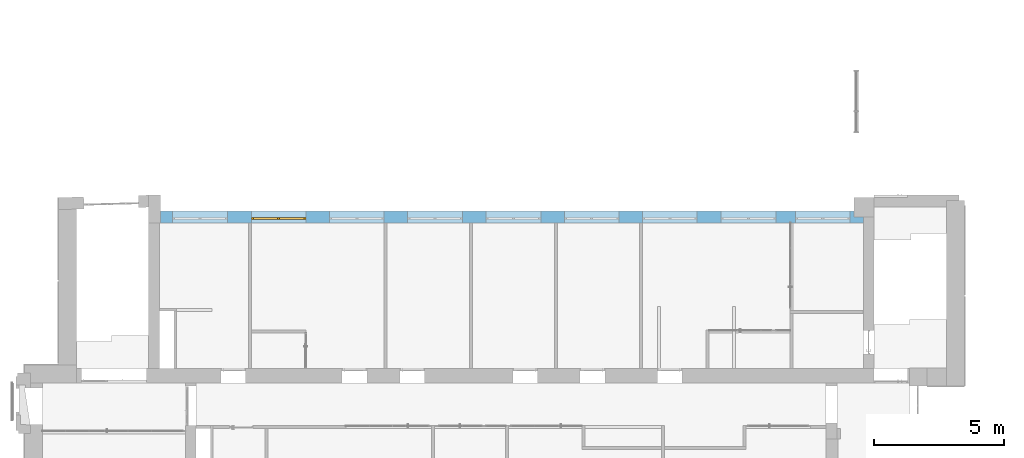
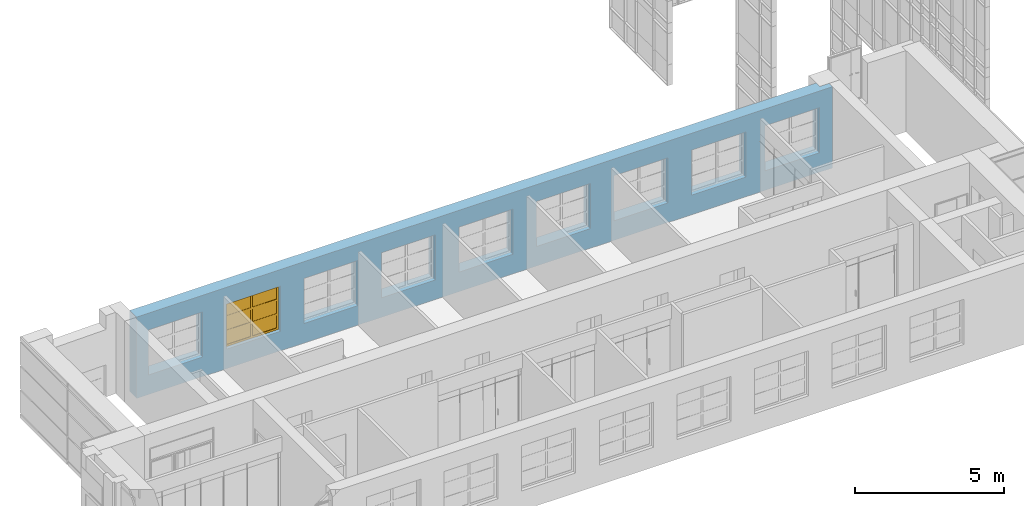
# One storey, part 60 of 73: 1 window, 9 openings, plus 1 element that does not belong to this part.
"""IFC2X3 building model written with IfcOpenShell, lengths in millimetres."""

from ifc_helpers import new_model, entity, si_unit, converted_unit, derived_unit, direction, frame, frame_2d, origin, origin_2d_with_axis, place, context, subcontext, project, spatial, polyline, rectangle, outline, extrude, face_set, surface_model, source, transform, mapped, material, material_list, layer, layer_set, layer_usage, type_object, type_shapes, element, fill, save


model = new_model("IFC2X3")

# Units and contexts
model_context = context("Model", 3, precision=0.01, world=origin(), true_north=direction((6.12303176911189e-17, 1.0)))
body_context = subcontext(model_context, "Body", "Model", "MODEL_VIEW")
ifc_project = project(units=[si_unit("LENGTHUNIT", "METRE", prefix="MILLI"), si_unit("AREAUNIT", "SQUARE_METRE"), si_unit("VOLUMEUNIT", "CUBIC_METRE"), converted_unit("PLANEANGLEUNIT", "DEGREE", entity("IfcRatioMeasure", 0.0174532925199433), si_unit("PLANEANGLEUNIT", "RADIAN"), dimensions=[0, 0, 0, 0, 0, 0, 0]), si_unit("MASSUNIT", "GRAM", prefix="KILO"), derived_unit("MASSDENSITYUNIT", [(si_unit("MASSUNIT", "GRAM", prefix="KILO"), 1), (si_unit("LENGTHUNIT", "METRE"), -3)]), si_unit("TIMEUNIT", "SECOND"), si_unit("FREQUENCYUNIT", "HERTZ"), si_unit("THERMODYNAMICTEMPERATUREUNIT", "DEGREE_CELSIUS"), derived_unit("THERMALTRANSMITTANCEUNIT", [(si_unit("MASSUNIT", "GRAM", prefix="KILO"), 1), (si_unit("THERMODYNAMICTEMPERATUREUNIT", "KELVIN"), -1), (si_unit("TIMEUNIT", "SECOND"), -3)]), derived_unit("VOLUMETRICFLOWRATEUNIT", [(si_unit("LENGTHUNIT", "METRE"), 3), (si_unit("TIMEUNIT", "SECOND"), -1)]), si_unit("ELECTRICCURRENTUNIT", "AMPERE"), si_unit("ELECTRICVOLTAGEUNIT", "VOLT"), si_unit("POWERUNIT", "WATT"), si_unit("FORCEUNIT", "NEWTON", prefix="KILO"), si_unit("ILLUMINANCEUNIT", "LUX"), si_unit("LUMINOUSFLUXUNIT", "LUMEN"), si_unit("LUMINOUSINTENSITYUNIT", "CANDELA"), derived_unit("USERDEFINED", [(si_unit("MASSUNIT", "GRAM", prefix="KILO"), -1), (si_unit("LENGTHUNIT", "METRE"), -2), (si_unit("TIMEUNIT", "SECOND"), 3), (si_unit("LUMINOUSFLUXUNIT", "LUMEN"), 1)]), derived_unit("LINEARVELOCITYUNIT", [(si_unit("LENGTHUNIT", "METRE"), 1), (si_unit("TIMEUNIT", "SECOND"), -1)]), si_unit("PRESSUREUNIT", "PASCAL"), derived_unit("USERDEFINED", [(si_unit("LENGTHUNIT", "METRE"), -2), (si_unit("MASSUNIT", "GRAM", prefix="KILO"), 1), (si_unit("TIMEUNIT", "SECOND"), -2)])], contexts=[model_context])

# Site, building, storey
site_placement = place(None, frame((-151.875543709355, 2715.0, 0.0)))
site = spatial("IfcSite", under=ifc_project, at=site_placement, Name="Surface", CompositionType="ELEMENT")
building_placement = place(site_placement, origin())
building = spatial("IfcBuilding", under=site, at=building_placement, CompositionType="ELEMENT")
storey_placement = place(building_placement, frame((0.0, 0.0, 6730.43000000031)))
storey = spatial("IfcBuildingStorey", under=building, at=storey_placement, Name="3 korrus", CompositionType="ELEMENT", Elevation=6730.43000000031)

# Wall, openings, window
ifc_material_1 = material(Name="Brick, Common")
ifc_layer_1 = layer(ifc_material_1, 440.0)
ifc_material_2 = material(Name="__Kips GN13_tava")
ifc_layer_2 = layer(ifc_material_2, 20.0)
ifc_layer_set = layer_set([ifc_layer_1, ifc_layer_2], Name="Basic Wall:VS-1")
ifc_layer_usage = layer_usage(ifc_layer_set, "AXIS2", "POSITIVE", -230.0)
wall_type = type_object("IfcWallType", Name="Basic Wall:VS-1", PredefinedType="STANDARD", material=ifc_layer_set)
wall_placement = place(storey_placement, frame((31972.6162682, 12380.0, 0.00203353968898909), z_axis=(0.0, 0.0, 1.0), x_axis=(-1.0, 0.0, 0.0)))
wall = element("IfcWallStandardCase", 1, at=wall_placement, inside=storey, type_object=wall_type, material=ifc_layer_usage, Name="SEIN - 005", ObjectType="Basic Wall:VS-1", context=body_context, shape_type="SweptSolid", body=[
    extrude(outline(polyline([(26972.5418693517, -230.0), (26972.5418693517, 230.0), (0.0, 230.0), (0.0, 0.0), (370.0, 0.0), (370.0, -230.0), (26972.5418693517, -230.0)])), origin(), (0.0, 0.0, 1.0), 3329.56796646),
])
opening_1_placement = place(wall_placement, frame((31972.6162682, 12380.0, -0.00203353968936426), z_axis=(0.0, 0.0, 1.0), x_axis=(-1.0, 0.0, 0.0)))
element("IfcOpeningElement", 2, at=opening_1_placement, cuts=wall, Name="SEIN - 005", ObjectType="Opening", context=body_context, shape_type="SweptSolid", body=[
    extrude(rectangle(XDim=1850.0, YDim=2100.0, at=frame_2d((0.0, -5.6843418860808e-13), x_axis=(1.0, 0.0))), frame((6512.84934801, 13077.9, 1725.00203353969), z_axis=(0.0, -1.0, 0.0), x_axis=(0.0, 0.0, 1.0)), (0.0, 0.0, 1.0), 1393.8),
])
opening_2_placement = place(wall_placement, frame((31972.6162682, 12380.0, -0.00203353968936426), z_axis=(0.0, 0.0, 1.0), x_axis=(-1.0, 0.0, 0.0)))
opening_2 = element("IfcOpeningElement", 3, at=opening_2_placement, cuts=wall, Name="SEIN - 005", ObjectType="Opening", context=body_context, shape_type="SweptSolid", body=[
    extrude(rectangle(XDim=1850.0, YDim=2100.0, at=origin_2d_with_axis()), frame((9532.84934801, 13077.9, 1725.00203353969), z_axis=(0.0, -1.0, 0.0), x_axis=(0.0, 0.0, 1.0)), (0.0, 0.0, 1.0), 1393.8),
])
opening_3_placement = place(wall_placement, frame((31972.6162682, 12380.0, -0.00203353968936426), z_axis=(0.0, 0.0, 1.0), x_axis=(-1.0, 0.0, 0.0)))
element("IfcOpeningElement", 4, at=opening_3_placement, cuts=wall, Name="SEIN - 005", ObjectType="Opening", context=body_context, shape_type="SweptSolid", body=[
    extrude(rectangle(XDim=1850.0, YDim=2100.0, at=frame_2d((0.0, -1.02318153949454e-12), x_axis=(1.0, 0.0))), frame((12532.84934801, 13077.9, 1725.00203353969), z_axis=(0.0, -1.0, 0.0), x_axis=(0.0, 0.0, 1.0)), (0.0, 0.0, 1.0), 1393.8),
])
opening_4_placement = place(wall_placement, frame((31972.6162682, 12380.0, -0.00203353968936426), z_axis=(0.0, 0.0, 1.0), x_axis=(-1.0, 0.0, 0.0)))
element("IfcOpeningElement", 5, at=opening_4_placement, cuts=wall, Name="SEIN - 005", ObjectType="Opening", context=body_context, shape_type="SweptSolid", body=[
    extrude(rectangle(XDim=1850.0, YDim=2100.0, at=origin_2d_with_axis()), frame((15532.849348, 13077.9, 1725.00203353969), z_axis=(0.0, -1.0, 0.0), x_axis=(0.0, 0.0, 1.0)), (0.0, 0.0, 1.0), 1393.8),
])
opening_5_placement = place(wall_placement, frame((31972.6162682, 12380.0, -0.00203353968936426), z_axis=(0.0, 0.0, 1.0), x_axis=(-1.0, 0.0, 0.0)))
element("IfcOpeningElement", 6, at=opening_5_placement, cuts=wall, Name="SEIN - 005", ObjectType="Opening", context=body_context, shape_type="SweptSolid", body=[
    extrude(rectangle(XDim=1850.0, YDim=2100.0, at=origin_2d_with_axis()), frame((18542.849348, 13077.9, 1725.00203353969), z_axis=(0.0, -1.0, 0.0), x_axis=(0.0, 0.0, 1.0)), (0.0, 0.0, 1.0), 1393.8),
])
opening_6_placement = place(wall_placement, frame((31972.6162682, 12380.0, -0.00203353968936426), z_axis=(0.0, 0.0, 1.0), x_axis=(-1.0, 0.0, 0.0)))
element("IfcOpeningElement", 7, at=opening_6_placement, cuts=wall, Name="SEIN - 005", ObjectType="Opening", context=body_context, shape_type="SweptSolid", body=[
    extrude(rectangle(XDim=1850.0, YDim=2100.0, at=origin_2d_with_axis()), frame((21543.0530903, 13077.9, 1725.00203353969), z_axis=(0.0, -1.0, 0.0), x_axis=(0.0, 0.0, 1.0)), (0.0, 0.0, 1.0), 1393.8),
])
opening_7_placement = place(wall_placement, frame((31972.6162682, 12380.0, -0.00203353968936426), z_axis=(0.0, 0.0, 1.0), x_axis=(-1.0, 0.0, 0.0)))
element("IfcOpeningElement", 8, at=opening_7_placement, cuts=wall, Name="SEIN - 005", ObjectType="Opening", context=body_context, shape_type="SweptSolid", body=[
    extrude(rectangle(XDim=1850.0, YDim=2100.0, at=origin_2d_with_axis()), frame((24543.0530903, 13077.9, 1725.00203353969), z_axis=(0.0, -1.0, 0.0), x_axis=(0.0, 0.0, 1.0)), (0.0, 0.0, 1.0), 1393.8),
])
opening_8_placement = place(wall_placement, frame((31972.6162682, 12380.0, -0.00203353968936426), z_axis=(0.0, 0.0, 1.0), x_axis=(-1.0, 0.0, 0.0)))
element("IfcOpeningElement", 9, at=opening_8_placement, cuts=wall, Name="SEIN - 005", ObjectType="Opening", context=body_context, shape_type="SweptSolid", body=[
    extrude(rectangle(XDim=1850.0, YDim=2100.0, at=origin_2d_with_axis()), frame((27563.0530903, 13077.9, 1725.00203353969), z_axis=(0.0, -1.0, 0.0), x_axis=(0.0, 0.0, 1.0)), (0.0, 0.0, 1.0), 1393.8),
])
opening_9_placement = place(wall_placement, frame((31972.6162682, 12380.0, -0.00203353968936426), z_axis=(0.0, 0.0, 1.0), x_axis=(-1.0, 0.0, 0.0)))
element("IfcOpeningElement", 10, at=opening_9_placement, cuts=wall, Name="SEIN - 005", ObjectType="Opening", context=body_context, shape_type="SweptSolid", body=[
    extrude(rectangle(XDim=1850.0, YDim=2100.0, at=origin_2d_with_axis()), frame((30412.5729235, 13077.9, 1725.00203353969), z_axis=(0.0, -1.0, 0.0), x_axis=(0.0, 0.0, 1.0)), (0.0, 0.0, 1.0), 1393.8),
])
ifc_material_3 = material(Name="Paint - Titanium White")
ifc_material_4 = material(Name="Paint - Dark Gray")
ifc_material_5 = material(Name="Glass - Clear Fast")
ifc_material_list_1 = material_list([ifc_material_3, ifc_material_4, ifc_material_5])
ifc_material_list_2 = material_list([ifc_material_3, ifc_material_4, ifc_material_5])
window_style = type_object("IfcWindowStyle", Name="Aken_1850x2100", ConstructionType="NOTDEFINED", OperationType="DOUBLE_PANEL_VERTICAL", ParameterTakesPrecedence=False, Sizeable=False, material=ifc_material_list_2)
shared_shape = source(origin(), body_context, "Body", "SurfaceModel", [
    surface_model("IfcFaceBasedSurfaceModel", [(80.0, -665.9, 1770.0), (80.0, -620.9, 1770.0), (0.0, -620.9, 1770.0), (0.0, -665.9, 1770.0), (80.0, -665.9, 80.0), (80.0, -620.9, 80.0), (80.0, -620.9, 1770.0), (80.0, -665.9, 1770.0), (80.0, -620.9, 1770.0), (80.0, -620.9, 80.0), (0.0, -620.9, 80.0), (0.0, -620.9, 1770.0), (0.0, -665.9, 1770.0), (0.0, -620.9, 1770.0), (0.0, -620.9, 80.0), (0.0, -665.9, 80.0), (80.0, -665.9, 1770.0), (0.0, -665.9, 1770.0), (0.0, -665.9, 80.0), (80.0, -665.9, 80.0), (0.0, -665.9, 80.0), (0.0, -620.9, 80.0), (80.0, -620.9, 80.0), (80.0, -665.9, 80.0), (2020.0, -665.9, 80.0), (2020.0, -620.9, 80.0), (2100.0, -620.9, 80.0), (2100.0, -665.9, 80.0), (2020.0, -665.9, 1770.0), (2020.0, -620.9, 1770.0), (2020.0, -620.9, 80.0), (2020.0, -665.9, 80.0), (2020.0, -620.9, 80.0), (2020.0, -620.9, 1770.0), (2100.0, -620.9, 1770.0), (2100.0, -620.9, 80.0), (2100.0, -665.9, 80.0), (2100.0, -620.9, 80.0), (2100.0, -620.9, 1770.0), (2100.0, -665.9, 1770.0), (2020.0, -665.9, 80.0), (2100.0, -665.9, 80.0), (2100.0, -665.9, 1770.0), (2020.0, -665.9, 1770.0), (2100.0, -665.9, 1770.0), (2100.0, -620.9, 1770.0), (2020.0, -620.9, 1770.0), (2020.0, -665.9, 1770.0), (1010.0, -665.9, 80.0), (1010.0, -620.9, 80.0), (1090.0, -620.9, 80.0), (1090.0, -665.9, 80.0), (1010.0, -665.9, 1770.0), (1010.0, -620.9, 1770.0), (1010.0, -620.9, 80.0), (1010.0, -665.9, 80.0), (1010.0, -620.9, 80.0), (1010.0, -620.9, 1770.0), (1090.0, -620.9, 1770.0), (1090.0, -620.9, 80.0), (1090.0, -665.9, 80.0), (1090.0, -620.9, 80.0), (1090.0, -620.9, 1770.0), (1090.0, -665.9, 1770.0), (1010.0, -665.9, 80.0), (1090.0, -665.9, 80.0), (1090.0, -665.9, 1770.0), (1010.0, -665.9, 1770.0), (1090.0, -665.9, 1770.0), (1090.0, -620.9, 1770.0), (1010.0, -620.9, 1770.0), (1010.0, -665.9, 1770.0), (80.0, -665.9, 80.0), (80.0, -620.9, 80.0), (0.0, -620.9, 80.0), (0.0, -665.9, 80.0), (1010.0, -665.9, 80.0), (1010.0, -620.9, 80.0), (80.0, -620.9, 80.0), (80.0, -665.9, 80.0), (80.0, -620.9, 80.0), (1010.0, -620.9, 80.0), (1090.0, -620.9, 80.0), (2020.0, -620.9, 80.0), (2100.0, -620.9, 80.0), (2100.0, -620.9, 0.0), (0.0, -620.9, 0.0), (0.0, -620.9, 80.0), (0.0, -665.9, 80.0), (0.0, -620.9, 80.0), (0.0, -620.9, 0.0), (0.0, -665.9, 0.0), (80.0, -665.9, 80.0), (0.0, -665.9, 80.0), (0.0, -665.9, 0.0), (2100.0, -665.9, 0.0), (2100.0, -665.9, 80.0), (2020.0, -665.9, 80.0), (1090.0, -665.9, 80.0), (1010.0, -665.9, 80.0), (1090.0, -665.9, 80.0), (1090.0, -620.9, 80.0), (1010.0, -620.9, 80.0), (1010.0, -665.9, 80.0), (2020.0, -665.9, 80.0), (2020.0, -620.9, 80.0), (1090.0, -620.9, 80.0), (1090.0, -665.9, 80.0), (2100.0, -665.9, 80.0), (2100.0, -620.9, 80.0), (2020.0, -620.9, 80.0), (2020.0, -665.9, 80.0), (2100.0, -665.9, 0.0), (2100.0, -620.9, 0.0), (2100.0, -620.9, 80.0), (2100.0, -665.9, 80.0), (0.0, -665.9, 0.0), (0.0, -620.9, 0.0), (2100.0, -620.9, 0.0), (2100.0, -665.9, 0.0), (1010.0, -665.9, 1770.0), (1010.0, -620.9, 1770.0), (1090.0, -620.9, 1770.0), (1090.0, -665.9, 1770.0), (80.0, -665.9, 1770.0), (80.0, -620.9, 1770.0), (1010.0, -620.9, 1770.0), (1010.0, -665.9, 1770.0), (1010.0, -620.9, 1770.0), (80.0, -620.9, 1770.0), (0.0, -620.9, 1770.0), (0.0, -620.9, 1850.0), (2100.0, -620.9, 1850.0), (2100.0, -620.9, 1770.0), (2020.0, -620.9, 1770.0), (1090.0, -620.9, 1770.0), (1090.0, -665.9, 1770.0), (1090.0, -620.9, 1770.0), (2020.0, -620.9, 1770.0), (2020.0, -665.9, 1770.0), (1010.0, -665.9, 1770.0), (1090.0, -665.9, 1770.0), (2020.0, -665.9, 1770.0), (2100.0, -665.9, 1770.0), (2100.0, -665.9, 1850.0), (0.0, -665.9, 1850.0), (0.0, -665.9, 1770.0), (80.0, -665.9, 1770.0), (0.0, -665.9, 1770.0), (0.0, -620.9, 1770.0), (80.0, -620.9, 1770.0), (80.0, -665.9, 1770.0), (0.0, -665.9, 1850.0), (0.0, -620.9, 1850.0), (0.0, -620.9, 1770.0), (0.0, -665.9, 1770.0), (2100.0, -665.9, 1850.0), (2100.0, -620.9, 1850.0), (0.0, -620.9, 1850.0), (0.0, -665.9, 1850.0), (2100.0, -665.9, 1770.0), (2100.0, -620.9, 1770.0), (2100.0, -620.9, 1850.0), (2100.0, -665.9, 1850.0), (2020.0, -665.9, 1770.0), (2020.0, -620.9, 1770.0), (2100.0, -620.9, 1770.0), (2100.0, -665.9, 1770.0), (80.0, -640.9, 590.0), (80.0, -630.9, 590.0), (1010.0, -630.9, 590.0), (1010.0, -640.9, 590.0), (80.0, -640.9, 670.0), (80.0, -630.9, 670.0), (80.0, -630.9, 590.0), (80.0, -640.9, 590.0), (80.0, -630.9, 590.0), (80.0, -630.9, 670.0), (1010.0, -630.9, 670.0), (1010.0, -630.9, 590.0), (1010.0, -640.9, 590.0), (1010.0, -630.9, 590.0), (1010.0, -630.9, 670.0), (1010.0, -640.9, 670.0), (80.0, -640.9, 590.0), (1010.0, -640.9, 590.0), (1010.0, -640.9, 670.0), (80.0, -640.9, 670.0), (1010.0, -640.9, 670.0), (1010.0, -630.9, 670.0), (80.0, -630.9, 670.0), (80.0, -640.9, 670.0), (80.0, -640.9, 1180.0), (80.0, -630.9, 1180.0), (1010.0, -630.9, 1180.0), (1010.0, -640.9, 1180.0), (80.0, -640.9, 1260.0), (80.0, -630.9, 1260.0), (80.0, -630.9, 1180.0), (80.0, -640.9, 1180.0), (80.0, -630.9, 1180.0), (80.0, -630.9, 1260.0), (1010.0, -630.9, 1260.0), (1010.0, -630.9, 1180.0), (1010.0, -640.9, 1180.0), (1010.0, -630.9, 1180.0), (1010.0, -630.9, 1260.0), (1010.0, -640.9, 1260.0), (80.0, -640.9, 1180.0), (1010.0, -640.9, 1180.0), (1010.0, -640.9, 1260.0), (80.0, -640.9, 1260.0), (1010.0, -640.9, 1260.0), (1010.0, -630.9, 1260.0), (80.0, -630.9, 1260.0), (80.0, -640.9, 1260.0), (1090.0, -640.9, 590.0), (1090.0, -630.9, 590.0), (2020.0, -630.9, 590.0), (2020.0, -640.9, 590.0), (1090.0, -640.9, 670.0), (1090.0, -630.9, 670.0), (1090.0, -630.9, 590.0), (1090.0, -640.9, 590.0), (1090.0, -630.9, 590.0), (1090.0, -630.9, 670.0), (2020.0, -630.9, 670.0), (2020.0, -630.9, 590.0), (2020.0, -640.9, 590.0), (2020.0, -630.9, 590.0), (2020.0, -630.9, 670.0), (2020.0, -640.9, 670.0), (1090.0, -640.9, 590.0), (2020.0, -640.9, 590.0), (2020.0, -640.9, 670.0), (1090.0, -640.9, 670.0), (2020.0, -640.9, 670.0), (2020.0, -630.9, 670.0), (1090.0, -630.9, 670.0), (1090.0, -640.9, 670.0), (1090.0, -640.9, 1180.0), (1090.0, -630.9, 1180.0), (2020.0, -630.9, 1180.0), (2020.0, -640.9, 1180.0), (1090.0, -640.9, 1260.0), (1090.0, -630.9, 1260.0), (1090.0, -630.9, 1180.0), (1090.0, -640.9, 1180.0), (1090.0, -630.9, 1180.0), (1090.0, -630.9, 1260.0), (2020.0, -630.9, 1260.0), (2020.0, -630.9, 1180.0), (2020.0, -640.9, 1180.0), (2020.0, -630.9, 1180.0), (2020.0, -630.9, 1260.0), (2020.0, -640.9, 1260.0), (1090.0, -640.9, 1180.0), (2020.0, -640.9, 1180.0), (2020.0, -640.9, 1260.0), (1090.0, -640.9, 1260.0), (2020.0, -640.9, 1260.0), (2020.0, -630.9, 1260.0), (1090.0, -630.9, 1260.0), (1090.0, -640.9, 1260.0)], [face_set([[[0, 1, 2, 3]]]), face_set([[[4, 5, 6, 7]]]), face_set([[[8, 9, 10, 11]]]), face_set([[[12, 13, 14, 15]]]), face_set([[[16, 17, 18, 19]]]), face_set([[[20, 21, 22, 23]]]), face_set([[[24, 25, 26, 27]]]), face_set([[[28, 29, 30, 31]]]), face_set([[[32, 33, 34, 35]]]), face_set([[[36, 37, 38, 39]]]), face_set([[[40, 41, 42, 43]]]), face_set([[[44, 45, 46, 47]]]), face_set([[[48, 49, 50, 51]]]), face_set([[[52, 53, 54, 55]]]), face_set([[[56, 57, 58, 59]]]), face_set([[[60, 61, 62, 63]]]), face_set([[[64, 65, 66, 67]]]), face_set([[[68, 69, 70, 71]]]), face_set([[[72, 73, 74, 75]]]), face_set([[[76, 77, 78, 79]]]), face_set([[[80, 81, 82, 83, 84, 85, 86, 87]]]), face_set([[[88, 89, 90, 91]]]), face_set([[[92, 93, 94, 95, 96, 97, 98, 99]]]), face_set([[[100, 101, 102, 103]]]), face_set([[[104, 105, 106, 107]]]), face_set([[[108, 109, 110, 111]]]), face_set([[[112, 113, 114, 115]]]), face_set([[[116, 117, 118, 119]]]), face_set([[[120, 121, 122, 123]]]), face_set([[[124, 125, 126, 127]]]), face_set([[[128, 129, 130, 131, 132, 133, 134, 135]]]), face_set([[[136, 137, 138, 139]]]), face_set([[[140, 141, 142, 143, 144, 145, 146, 147]]]), face_set([[[148, 149, 150, 151]]]), face_set([[[152, 153, 154, 155]]]), face_set([[[156, 157, 158, 159]]]), face_set([[[160, 161, 162, 163]]]), face_set([[[164, 165, 166, 167]]]), face_set([[[168, 169, 170, 171]]]), face_set([[[172, 173, 174, 175]]]), face_set([[[176, 177, 178, 179]]]), face_set([[[180, 181, 182, 183]]]), face_set([[[184, 185, 186, 187]]]), face_set([[[188, 189, 190, 191]]]), face_set([[[192, 193, 194, 195]]]), face_set([[[196, 197, 198, 199]]]), face_set([[[200, 201, 202, 203]]]), face_set([[[204, 205, 206, 207]]]), face_set([[[208, 209, 210, 211]]]), face_set([[[212, 213, 214, 215]]]), face_set([[[216, 217, 218, 219]]]), face_set([[[220, 221, 222, 223]]]), face_set([[[224, 225, 226, 227]]]), face_set([[[228, 229, 230, 231]]]), face_set([[[232, 233, 234, 235]]]), face_set([[[236, 237, 238, 239]]]), face_set([[[240, 241, 242, 243]]]), face_set([[[244, 245, 246, 247]]]), face_set([[[248, 249, 250, 251]]]), face_set([[[252, 253, 254, 255]]]), face_set([[[256, 257, 258, 259]]]), face_set([[[260, 261, 262, 263]]])]),
    surface_model("IfcFaceBasedSurfaceModel", [(80.0, -620.9, 1770.0), (80.0, -595.9, 1770.0), (0.0, -595.9, 1770.0), (0.0, -620.9, 1770.0), (80.0, -620.9, 80.0), (80.0, -595.9, 80.0), (80.0, -595.9, 1770.0), (80.0, -620.9, 1770.0), (80.0, -595.9, 1770.0), (80.0, -595.9, 80.0), (0.0, -595.9, 80.0), (0.0, -595.9, 1770.0), (0.0, -620.9, 1770.0), (0.0, -595.9, 1770.0), (0.0, -595.9, 80.0), (0.0, -620.9, 80.0), (80.0, -620.9, 1770.0), (0.0, -620.9, 1770.0), (0.0, -620.9, 80.0), (80.0, -620.9, 80.0), (0.0, -620.9, 80.0), (0.0, -595.9, 80.0), (80.0, -595.9, 80.0), (80.0, -620.9, 80.0), (2020.0, -620.9, 80.0), (2020.0, -595.9, 80.0), (2100.0, -595.9, 80.0), (2100.0, -620.9, 80.0), (2020.0, -620.9, 1770.0), (2020.0, -595.9, 1770.0), (2020.0, -595.9, 80.0), (2020.0, -620.9, 80.0), (2020.0, -595.9, 80.0), (2020.0, -595.9, 1770.0), (2100.0, -595.9, 1770.0), (2100.0, -595.9, 80.0), (2100.0, -620.9, 80.0), (2100.0, -595.9, 80.0), (2100.0, -595.9, 1770.0), (2100.0, -620.9, 1770.0), (2020.0, -620.9, 80.0), (2100.0, -620.9, 80.0), (2100.0, -620.9, 1770.0), (2020.0, -620.9, 1770.0), (2100.0, -620.9, 1770.0), (2100.0, -595.9, 1770.0), (2020.0, -595.9, 1770.0), (2020.0, -620.9, 1770.0), (1010.0, -620.9, 80.0), (1010.0, -595.9, 80.0), (1090.0, -595.9, 80.0), (1090.0, -620.9, 80.0), (1010.0, -620.9, 1770.0), (1010.0, -595.9, 1770.0), (1010.0, -595.9, 80.0), (1010.0, -620.9, 80.0), (1010.0, -595.9, 80.0), (1010.0, -595.9, 1770.0), (1090.0, -595.9, 1770.0), (1090.0, -595.9, 80.0), (1090.0, -620.9, 80.0), (1090.0, -595.9, 80.0), (1090.0, -595.9, 1770.0), (1090.0, -620.9, 1770.0), (1010.0, -620.9, 80.0), (1090.0, -620.9, 80.0), (1090.0, -620.9, 1770.0), (1010.0, -620.9, 1770.0), (1090.0, -620.9, 1770.0), (1090.0, -595.9, 1770.0), (1010.0, -595.9, 1770.0), (1010.0, -620.9, 1770.0), (80.0, -620.9, 80.0), (80.0, -595.9, 80.0), (0.0, -595.9, 80.0), (0.0, -620.9, 80.0), (1010.0, -620.9, 80.0), (1010.0, -595.9, 80.0), (80.0, -595.9, 80.0), (80.0, -620.9, 80.0), (80.0, -595.9, 80.0), (1010.0, -595.9, 80.0), (1090.0, -595.9, 80.0), (2020.0, -595.9, 80.0), (2100.0, -595.9, 80.0), (2100.0, -595.9, 0.0), (0.0, -595.9, 0.0), (0.0, -595.9, 80.0), (0.0, -620.9, 80.0), (0.0, -595.9, 80.0), (0.0, -595.9, 0.0), (0.0, -620.9, 0.0), (80.0, -620.9, 80.0), (0.0, -620.9, 80.0), (0.0, -620.9, 0.0), (2100.0, -620.9, 0.0), (2100.0, -620.9, 80.0), (2020.0, -620.9, 80.0), (1090.0, -620.9, 80.0), (1010.0, -620.9, 80.0), (1090.0, -620.9, 80.0), (1090.0, -595.9, 80.0), (1010.0, -595.9, 80.0), (1010.0, -620.9, 80.0), (2020.0, -620.9, 80.0), (2020.0, -595.9, 80.0), (1090.0, -595.9, 80.0), (1090.0, -620.9, 80.0), (2100.0, -620.9, 80.0), (2100.0, -595.9, 80.0), (2020.0, -595.9, 80.0), (2020.0, -620.9, 80.0), (2100.0, -620.9, 0.0), (2100.0, -595.9, 0.0), (2100.0, -595.9, 80.0), (2100.0, -620.9, 80.0), (0.0, -620.9, 0.0), (0.0, -595.9, 0.0), (2100.0, -595.9, 0.0), (2100.0, -620.9, 0.0), (1010.0, -620.9, 1770.0), (1010.0, -595.9, 1770.0), (1090.0, -595.9, 1770.0), (1090.0, -620.9, 1770.0), (80.0, -620.9, 1770.0), (80.0, -595.9, 1770.0), (1010.0, -595.9, 1770.0), (1010.0, -620.9, 1770.0), (1010.0, -595.9, 1770.0), (80.0, -595.9, 1770.0), (0.0, -595.9, 1770.0), (0.0, -595.9, 1850.0), (2100.0, -595.9, 1850.0), (2100.0, -595.9, 1770.0), (2020.0, -595.9, 1770.0), (1090.0, -595.9, 1770.0), (1090.0, -620.9, 1770.0), (1090.0, -595.9, 1770.0), (2020.0, -595.9, 1770.0), (2020.0, -620.9, 1770.0), (1010.0, -620.9, 1770.0), (1090.0, -620.9, 1770.0), (2020.0, -620.9, 1770.0), (2100.0, -620.9, 1770.0), (2100.0, -620.9, 1850.0), (0.0, -620.9, 1850.0), (0.0, -620.9, 1770.0), (80.0, -620.9, 1770.0), (0.0, -620.9, 1770.0), (0.0, -595.9, 1770.0), (80.0, -595.9, 1770.0), (80.0, -620.9, 1770.0), (0.0, -620.9, 1850.0), (0.0, -595.9, 1850.0), (0.0, -595.9, 1770.0), (0.0, -620.9, 1770.0), (2100.0, -620.9, 1850.0), (2100.0, -595.9, 1850.0), (0.0, -595.9, 1850.0), (0.0, -620.9, 1850.0), (2100.0, -620.9, 1770.0), (2100.0, -595.9, 1770.0), (2100.0, -595.9, 1850.0), (2100.0, -620.9, 1850.0), (2020.0, -620.9, 1770.0), (2020.0, -595.9, 1770.0), (2100.0, -595.9, 1770.0), (2100.0, -620.9, 1770.0), (80.0, -630.9, 590.0), (80.0, -600.9, 590.0), (1010.0, -600.9, 590.0), (1010.0, -630.9, 590.0), (80.0, -630.9, 670.0), (80.0, -600.9, 670.0), (80.0, -600.9, 590.0), (80.0, -630.9, 590.0), (80.0, -600.9, 590.0), (80.0, -600.9, 670.0), (1010.0, -600.9, 670.0), (1010.0, -600.9, 590.0), (1010.0, -630.9, 590.0), (1010.0, -600.9, 590.0), (1010.0, -600.9, 670.0), (1010.0, -630.9, 670.0), (80.0, -630.9, 590.0), (1010.0, -630.9, 590.0), (1010.0, -630.9, 670.0), (80.0, -630.9, 670.0), (1010.0, -630.9, 670.0), (1010.0, -600.9, 670.0), (80.0, -600.9, 670.0), (80.0, -630.9, 670.0), (80.0, -630.9, 1180.0), (80.0, -600.9, 1180.0), (1010.0, -600.9, 1180.0), (1010.0, -630.9, 1180.0), (80.0, -630.9, 1260.0), (80.0, -600.9, 1260.0), (80.0, -600.9, 1180.0), (80.0, -630.9, 1180.0), (80.0, -600.9, 1180.0), (80.0, -600.9, 1260.0), (1010.0, -600.9, 1260.0), (1010.0, -600.9, 1180.0), (1010.0, -630.9, 1180.0), (1010.0, -600.9, 1180.0), (1010.0, -600.9, 1260.0), (1010.0, -630.9, 1260.0), (80.0, -630.9, 1180.0), (1010.0, -630.9, 1180.0), (1010.0, -630.9, 1260.0), (80.0, -630.9, 1260.0), (1010.0, -630.9, 1260.0), (1010.0, -600.9, 1260.0), (80.0, -600.9, 1260.0), (80.0, -630.9, 1260.0), (1090.0, -630.9, 590.0), (1090.0, -600.9, 590.0), (2020.0, -600.9, 590.0), (2020.0, -630.9, 590.0), (1090.0, -630.9, 670.0), (1090.0, -600.9, 670.0), (1090.0, -600.9, 590.0), (1090.0, -630.9, 590.0), (1090.0, -600.9, 590.0), (1090.0, -600.9, 670.0), (2020.0, -600.9, 670.0), (2020.0, -600.9, 590.0), (2020.0, -630.9, 590.0), (2020.0, -600.9, 590.0), (2020.0, -600.9, 670.0), (2020.0, -630.9, 670.0), (1090.0, -630.9, 590.0), (2020.0, -630.9, 590.0), (2020.0, -630.9, 670.0), (1090.0, -630.9, 670.0), (2020.0, -630.9, 670.0), (2020.0, -600.9, 670.0), (1090.0, -600.9, 670.0), (1090.0, -630.9, 670.0), (1090.0, -630.9, 1180.0), (1090.0, -600.9, 1180.0), (2020.0, -600.9, 1180.0), (2020.0, -630.9, 1180.0), (1090.0, -630.9, 1260.0), (1090.0, -600.9, 1260.0), (1090.0, -600.9, 1180.0), (1090.0, -630.9, 1180.0), (1090.0, -600.9, 1180.0), (1090.0, -600.9, 1260.0), (2020.0, -600.9, 1260.0), (2020.0, -600.9, 1180.0), (2020.0, -630.9, 1180.0), (2020.0, -600.9, 1180.0), (2020.0, -600.9, 1260.0), (2020.0, -630.9, 1260.0), (1090.0, -630.9, 1180.0), (2020.0, -630.9, 1180.0), (2020.0, -630.9, 1260.0), (1090.0, -630.9, 1260.0), (2020.0, -630.9, 1260.0), (2020.0, -600.9, 1260.0), (1090.0, -600.9, 1260.0), (1090.0, -630.9, 1260.0)], [face_set([[[0, 1, 2, 3]]]), face_set([[[4, 5, 6, 7]]]), face_set([[[8, 9, 10, 11]]]), face_set([[[12, 13, 14, 15]]]), face_set([[[16, 17, 18, 19]]]), face_set([[[20, 21, 22, 23]]]), face_set([[[24, 25, 26, 27]]]), face_set([[[28, 29, 30, 31]]]), face_set([[[32, 33, 34, 35]]]), face_set([[[36, 37, 38, 39]]]), face_set([[[40, 41, 42, 43]]]), face_set([[[44, 45, 46, 47]]]), face_set([[[48, 49, 50, 51]]]), face_set([[[52, 53, 54, 55]]]), face_set([[[56, 57, 58, 59]]]), face_set([[[60, 61, 62, 63]]]), face_set([[[64, 65, 66, 67]]]), face_set([[[68, 69, 70, 71]]]), face_set([[[72, 73, 74, 75]]]), face_set([[[76, 77, 78, 79]]]), face_set([[[80, 81, 82, 83, 84, 85, 86, 87]]]), face_set([[[88, 89, 90, 91]]]), face_set([[[92, 93, 94, 95, 96, 97, 98, 99]]]), face_set([[[100, 101, 102, 103]]]), face_set([[[104, 105, 106, 107]]]), face_set([[[108, 109, 110, 111]]]), face_set([[[112, 113, 114, 115]]]), face_set([[[116, 117, 118, 119]]]), face_set([[[120, 121, 122, 123]]]), face_set([[[124, 125, 126, 127]]]), face_set([[[128, 129, 130, 131, 132, 133, 134, 135]]]), face_set([[[136, 137, 138, 139]]]), face_set([[[140, 141, 142, 143, 144, 145, 146, 147]]]), face_set([[[148, 149, 150, 151]]]), face_set([[[152, 153, 154, 155]]]), face_set([[[156, 157, 158, 159]]]), face_set([[[160, 161, 162, 163]]]), face_set([[[164, 165, 166, 167]]]), face_set([[[168, 169, 170, 171]]]), face_set([[[172, 173, 174, 175]]]), face_set([[[176, 177, 178, 179]]]), face_set([[[180, 181, 182, 183]]]), face_set([[[184, 185, 186, 187]]]), face_set([[[188, 189, 190, 191]]]), face_set([[[192, 193, 194, 195]]]), face_set([[[196, 197, 198, 199]]]), face_set([[[200, 201, 202, 203]]]), face_set([[[204, 205, 206, 207]]]), face_set([[[208, 209, 210, 211]]]), face_set([[[212, 213, 214, 215]]]), face_set([[[216, 217, 218, 219]]]), face_set([[[220, 221, 222, 223]]]), face_set([[[224, 225, 226, 227]]]), face_set([[[228, 229, 230, 231]]]), face_set([[[232, 233, 234, 235]]]), face_set([[[236, 237, 238, 239]]]), face_set([[[240, 241, 242, 243]]]), face_set([[[244, 245, 246, 247]]]), face_set([[[248, 249, 250, 251]]]), face_set([[[252, 253, 254, 255]]]), face_set([[[256, 257, 258, 259]]]), face_set([[[260, 261, 262, 263]]])]),
    surface_model("IfcFaceBasedSurfaceModel", [(1010.0, -630.9, 80.0), (1010.0, -630.9, 590.0), (80.0, -630.9, 590.0), (80.0, -630.9, 80.0), (1010.0, -610.9, 80.0), (80.0, -610.9, 80.0), (80.0, -610.9, 590.0), (1010.0, -610.9, 590.0), (1010.0, -630.9, 670.0), (1010.0, -630.9, 1180.0), (80.0, -630.9, 1180.0), (80.0, -630.9, 670.0), (1010.0, -610.9, 670.0), (80.0, -610.9, 670.0), (80.0, -610.9, 1180.0), (1010.0, -610.9, 1180.0), (1010.0, -630.9, 1260.0), (1010.0, -630.9, 1770.0), (80.0, -630.9, 1770.0), (80.0, -630.9, 1260.0), (1010.0, -610.9, 1260.0), (80.0, -610.9, 1260.0), (80.0, -610.9, 1770.0), (1010.0, -610.9, 1770.0), (2020.0, -630.9, 80.0), (2020.0, -630.9, 590.0), (1090.0, -630.9, 590.0), (1090.0, -630.9, 80.0), (2020.0, -610.9, 80.0), (1090.0, -610.9, 80.0), (1090.0, -610.9, 590.0), (2020.0, -610.9, 590.0), (2020.0, -630.9, 670.0), (2020.0, -630.9, 1180.0), (1090.0, -630.9, 1180.0), (1090.0, -630.9, 670.0), (2020.0, -610.9, 670.0), (1090.0, -610.9, 670.0), (1090.0, -610.9, 1180.0), (2020.0, -610.9, 1180.0), (2020.0, -630.9, 1260.0), (2020.0, -630.9, 1770.0), (1090.0, -630.9, 1770.0), (1090.0, -630.9, 1260.0), (2020.0, -610.9, 1260.0), (1090.0, -610.9, 1260.0), (1090.0, -610.9, 1770.0), (2020.0, -610.9, 1770.0)], [face_set([[[0, 1, 2, 3]]]), face_set([[[4, 5, 6, 7]]]), face_set([[[8, 9, 10, 11]]]), face_set([[[12, 13, 14, 15]]]), face_set([[[16, 17, 18, 19]]]), face_set([[[20, 21, 22, 23]]]), face_set([[[24, 25, 26, 27]]]), face_set([[[28, 29, 30, 31]]]), face_set([[[32, 33, 34, 35]]]), face_set([[[36, 37, 38, 39]]]), face_set([[[40, 41, 42, 43]]]), face_set([[[44, 45, 46, 47]]])]),
])
type_shapes(window_style, [shared_shape])
window_placement = place(opening_2_placement, frame((10582.84934801, 11684.1, 800.002033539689), z_axis=(0.0, 0.0, 1.0), x_axis=(-1.0, 0.0, 0.0)))
window = element("IfcWindow", 11, at=window_placement, inside=storey, type_object=window_style, material=ifc_material_list_1, Name="Aken_1850x2100:Aken_1850x2100", ObjectType="Aken_1850x2100", OverallHeight=2100.0, OverallWidth=1850.0, context=body_context, shape_type="MappedRepresentation", body=[
    mapped(shared_shape, transform((0.0, 0.0, 0.0), scale=1.0)),
])
fill(opening_2, window)

save(model, "model.ifc")
